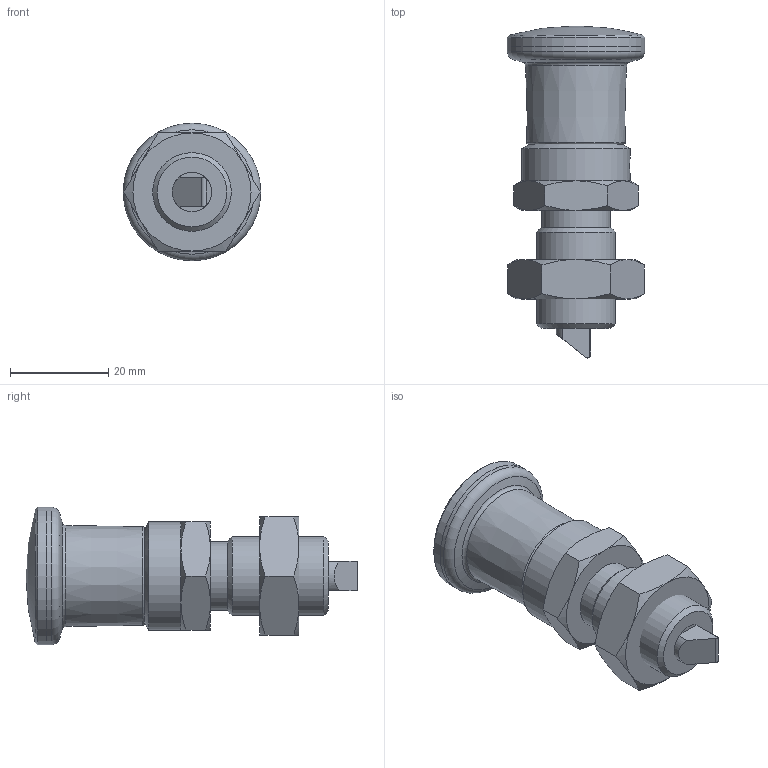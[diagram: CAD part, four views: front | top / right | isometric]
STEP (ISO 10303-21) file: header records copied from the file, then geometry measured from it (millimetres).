
FILE_DESCRIPTION(/* description */ ('STEP AP214'),/* implementation_level */ '2;1');
FILE_NAME(/* name */ 'Indexing Plunger_ Stainless Steel GN 824-6-6-CK-NI (deactivated)',/* time_stamp */ '2024-11-28T10:49:57+01:00',/* author */ ('License CC BY-ND 4.0'),/* organization */ ('CADENAS'),/* preprocessor_version */ 'ST-DEVELOPER v19.3',/* originating_system */ 'PARTsolutions',/* authorisation */ ' ');
FILE_SCHEMA (('AUTOMOTIVE_DESIGN {1 0 10303 214 3 1 1}'));
Length unit declared in the file: millimetre
Products named in the file (4): Indexing Plunger, Stainless Steel GN 824-6-6-CK-NI (deactivated); Indexing Plunger, Stainless Steel GN 824-6-6-CK-NI (closed)-1; Indexing Plunger, Stainless Steel GN 824-6-6-CK-NI (closed)-2; Indexing Plunger, Stainless Steel GN 824-6-6-CK-NI (closed)-3
Assembly tree (3 placements, depth 2):
  Indexing Plunger, Stainless Steel GN 824-6-6-CK-NI (deactivated)
    Indexing Plunger, Stainless Steel GN 824-6-6-CK-NI (closed)-1
    Indexing Plunger, Stainless Steel GN 824-6-6-CK-NI (closed)-2
    Indexing Plunger, Stainless Steel GN 824-6-6-CK-NI (closed)-3
Bounding box: 28 x 67.5 x 28 mm (x, y, z)
Volume: 20474.1 mm3; surface area: 11256.8 mm2
Topology: 3 solids, 3 shells, 104 faces, 224 edges, 137 vertices
Faces by surface type: plane 48, cone 33, cylinder 19, torus 3, sphere 1
Full cylindrical faces by diameter (mm): 3.3 x1, 6 x2, 8 x2, 9 x2, 10.5 x1, 13.835 x1, 14 x1, 16 x1, 22 x1, 27.98 x1, 28 x1
Entity records: 3352 total; most frequent: CARTESIAN_POINT 619, DIRECTION 426, ORIENTED_EDGE 382, EDGE_CURVE 191, AXIS2_PLACEMENT_3D 185, EDGE_LOOP 146, FACE_BOUND 146, VERTEX_POINT 131
